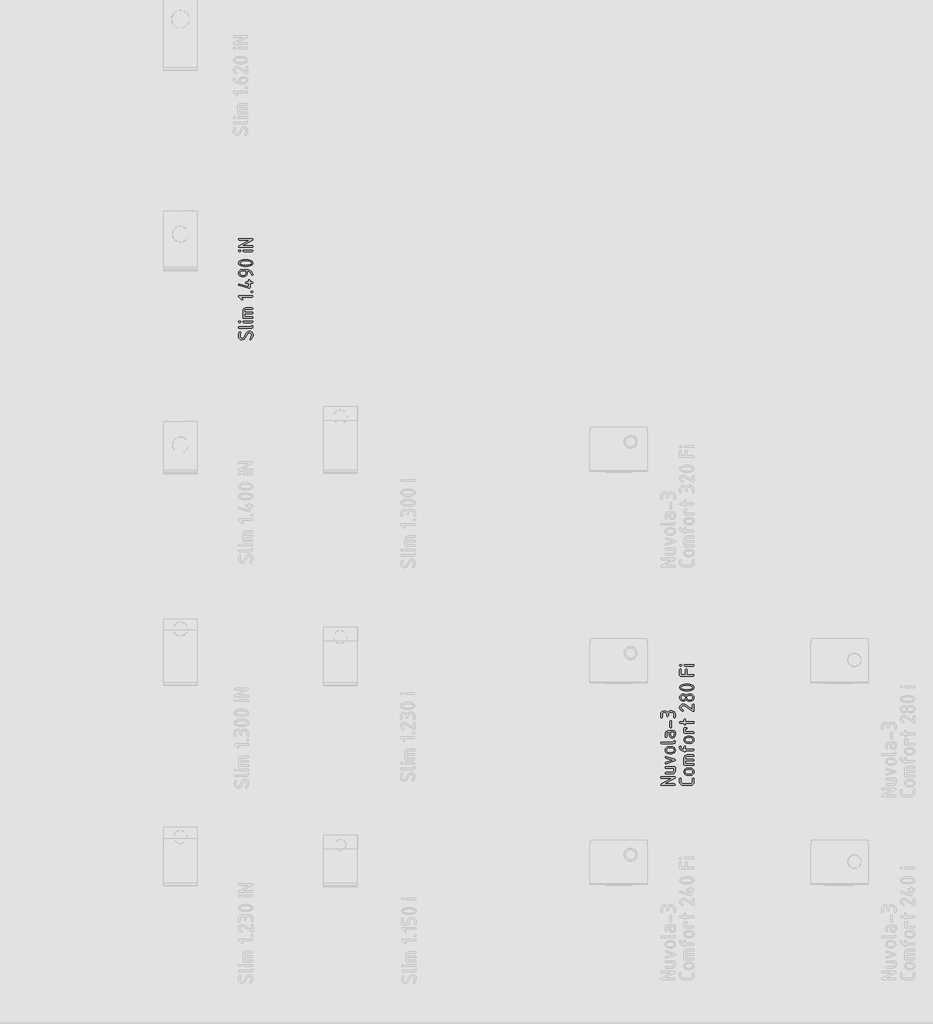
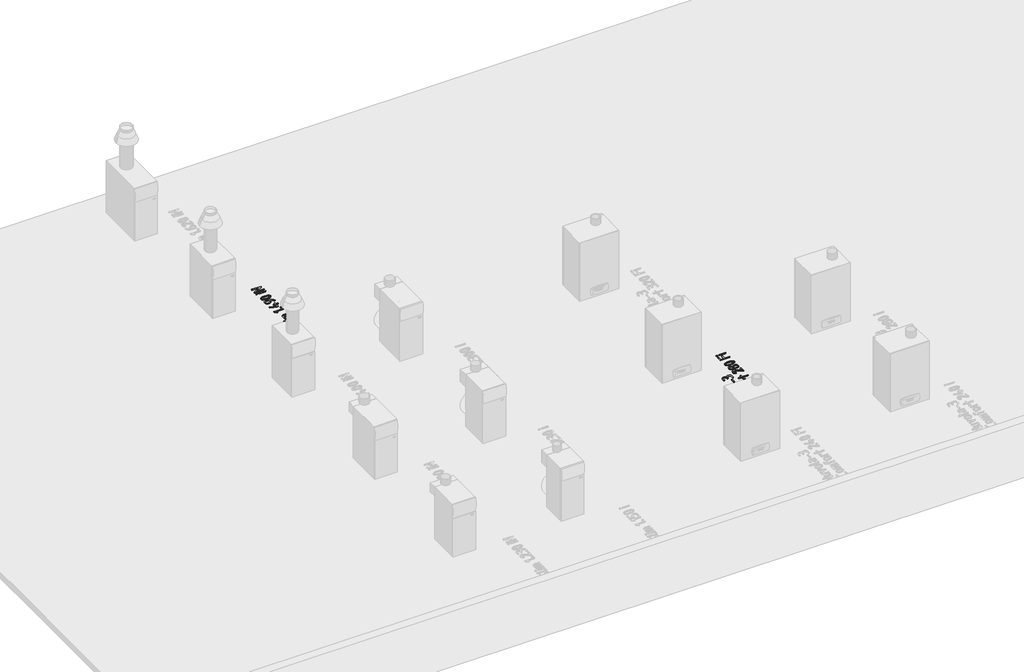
# One storey, part 10 of 37: 2 proxies.
"""IFC4 building model written with IfcOpenShell, lengths in millimetres."""

import ifcopenshell
import ifcopenshell.guid

model = None  # the IFC model being written
_history = None  # IfcOwnerHistory: only IFC2X3 demands one
_inside = {}  # id of a spatial element -> (the spatial element, [elements in it])
_under = {}  # id of a project, library or spatial element -> (it, [spatial elements below it])
_declared = {}  # id of a project -> (the project, [libraries it declares])
_typed = {}  # id of a type object -> (the type object, [elements of that type])
_made_of = {}  # id of a material, layer set ... -> (it, [elements and type objects made of it])


def new_model(schema):
    """Start an empty IFC model of exactly this schema.

    Asked for "IFC4X3", IfcOpenShell would pick the latest addendum, in which some entities
    have other attributes; the version numbers below select the first issue.
    IFC2X3 requires an IfcOwnerHistory on every rooted entity: one is made here for all.
    """
    global model, _history
    if schema == "IFC4X3":
        model = ifcopenshell.file(schema_version=(4, 3, 0, 0))
    else:
        model = ifcopenshell.file(schema=schema)
    _inside.clear()
    _under.clear()
    _declared.clear()
    _typed.clear()
    _made_of.clear()
    _history = None
    if model.schema == "IFC2X3":
        org = make("IfcOrganization", Name="unknown")
        user = make(
            "IfcPersonAndOrganization",
            ThePerson=make("IfcPerson", FamilyName="unknown"),
            TheOrganization=org,
        )
        app = make(
            "IfcApplication",
            ApplicationDeveloper=org,
            Version="unknown",
            ApplicationFullName="unknown",
            ApplicationIdentifier="unknown",
        )
        _history = make(
            "IfcOwnerHistory",
            OwningUser=user,
            OwningApplication=app,
            ChangeAction="ADDED",
            CreationDate=0,
        )
    return model


def make(cls, **values):
    """One entity of the class cls with the attributes given. An attribute that is None is left unset."""
    return model.create_entity(
        cls, **{name: value for name, value in values.items() if value is not None}
    )


def rooted(cls, **values):
    """An entity with a GlobalId (a new one), such as an element, a storey or a relation."""
    return make(cls, GlobalId=ifcopenshell.guid.new(), OwnerHistory=_history, **values)


def si_unit(unit_type, name, prefix=None):
    """IfcSIUnit, for example si_unit("LENGTHUNIT", "METRE", prefix="MILLI")."""
    return make("IfcSIUnit", UnitType=unit_type, Prefix=prefix, Name=name)


def assignment(units):
    """IfcUnitAssignment: the units of a project."""
    return None if units is None else make("IfcUnitAssignment", Units=units)


def point(xyz):
    """IfcCartesianPoint."""
    return None if xyz is None else make("IfcCartesianPoint", Coordinates=xyz)


def direction(xyz):
    """IfcDirection."""
    return None if xyz is None else make("IfcDirection", DirectionRatios=xyz)


def frame(location, z_axis=None, x_axis=None):
    """IfcAxis2Placement3D, a coordinate frame: its origin and axes. An axis left out is left unset."""
    return make(
        "IfcAxis2Placement3D",
        Location=point(location),
        Axis=direction(z_axis),
        RefDirection=direction(x_axis),
    )


def origin():
    """The frame at (0, 0, 0) with its axes left unset."""
    return frame((0.0, 0.0, 0.0))


def origin_with_axes():
    """The frame at (0, 0, 0) with the z axis (0, 0, 1) and the x axis (1, 0, 0) written out."""
    return frame((0.0, 0.0, 0.0), z_axis=(0.0, 0.0, 1.0), x_axis=(1.0, 0.0, 0.0))


def place(relative_to, where):
    """IfcLocalPlacement: puts the frame where relative to a parent placement (None: the world)."""
    return make(
        "IfcLocalPlacement", PlacementRelTo=relative_to, RelativePlacement=where
    )


def context(
    kind, dimensions, precision=None, world=None, true_north=None, identifier=None
):
    """IfcGeometricRepresentationContext, for example the 3D "Model" context."""
    return make(
        "IfcGeometricRepresentationContext",
        ContextIdentifier=identifier,
        ContextType=kind,
        CoordinateSpaceDimension=dimensions,
        Precision=precision,
        WorldCoordinateSystem=world,
        TrueNorth=true_north,
    )


def project(units=None, contexts=None):
    """IfcProject with its units and contexts."""
    return rooted(
        "IfcProject",
        Name="project",
        RepresentationContexts=contexts,
        UnitsInContext=assignment(units),
    )


def spatial(cls, under=None, at=None, **own):
    """A site, building, storey or space (cls), placed at a placement, below another one or the project."""
    s = rooted(cls, ObjectPlacement=at, **own)
    if under is not None:
        _under.setdefault(under.id(), (under, []))[1].append(s)
    return s


def polyline(points):
    """IfcPolyline through the points."""
    return make("IfcPolyline", Points=[point(p) for p in points])


def outline(outer, holes=None, kind="AREA"):
    """IfcArbitraryClosedProfileDef: a profile drawn as a closed curve; with holes, ...WithVoids."""
    if holes is None:
        return make("IfcArbitraryClosedProfileDef", ProfileType=kind, OuterCurve=outer)
    return make(
        "IfcArbitraryProfileDefWithVoids",
        ProfileType=kind,
        OuterCurve=outer,
        InnerCurves=holes,
    )


def extrude(swept, where, along, depth):
    """IfcExtrudedAreaSolid: the profile swept, set in the frame where, extruded along a direction by depth."""
    return make(
        "IfcExtrudedAreaSolid",
        SweptArea=swept,
        Position=where,
        ExtrudedDirection=direction(along),
        Depth=depth,
    )


def shape(context_of_items, identifier, shape_type, items):
    """IfcShapeRepresentation: the items that make up one representation, for example the "Body"."""
    return make(
        "IfcShapeRepresentation",
        ContextOfItems=context_of_items,
        RepresentationIdentifier=identifier,
        RepresentationType=shape_type,
        Items=items,
    )


def made_of(thing, what):
    """Note that an element or type object is made of a material, layer set ...; save() writes the relation."""
    if what is not None:
        _made_of.setdefault(what.id(), (what, []))[1].append(thing)
    return thing


def element(
    cls,
    number,
    at=None,
    inside=None,
    cuts=None,
    type_object=None,
    material=None,
    context=None,
    identifier="Body",
    shape_type=None,
    held_by="IfcProductDefinitionShape",
    body=None,
    shapes=None,
    **own,
):
    """One element of the class cls, such as IfcWall. Its Tag is "e" and its number.

    at: its placement. inside: the storey or other place that contains it. cuts: it is an
    opening in that element (IfcRelVoidsElement). A single representation is given by context,
    identifier, shape_type and body (its items); several are given by shapes. held_by: the class
    of the entity that holds the representations. save() writes the other relations.
    """
    e = rooted(cls, Tag="e%d" % number, ObjectPlacement=at, **own)
    if body is not None:
        shapes = [shape(context, identifier, shape_type, body)]
    if shapes is not None:
        e.Representation = make(held_by, Representations=shapes)
    if inside is not None:
        _inside.setdefault(inside.id(), (inside, []))[1].append(e)
    if cuts is not None:
        rooted(
            "IfcRelVoidsElement", RelatingBuildingElement=cuts, RelatedOpeningElement=e
        )
    if type_object is not None:
        _typed.setdefault(type_object.id(), (type_object, []))[1].append(e)
    return made_of(e, material)


def aggregate(whole, parts):
    """IfcRelAggregates: a whole, such as a stair, and the parts it consists of."""
    return rooted("IfcRelAggregates", RelatingObject=whole, RelatedObjects=parts)


def save(model, path):
    """Write the relations noted so far, then the file.

    IfcRelAggregates (storeys below a building ...), IfcRelContainedInSpatialStructure (elements
    in a storey), IfcRelDefinesByType, IfcRelAssociatesMaterial and IfcRelDeclares: one each for
    every whole, place, type object, material and project.
    """
    for whole, parts in _under.values():
        aggregate(whole, parts)
    for where, things in _inside.values():
        rooted(
            "IfcRelContainedInSpatialStructure",
            RelatedElements=things,
            RelatingStructure=where,
        )
    for kind, things in _typed.values():
        rooted("IfcRelDefinesByType", RelatedObjects=things, RelatingType=kind)
    for what, things in _made_of.values():
        rooted("IfcRelAssociatesMaterial", RelatedObjects=things, RelatingMaterial=what)
    for by, libraries in _declared.values():
        rooted("IfcRelDeclares", RelatingContext=by, RelatedDefinitions=libraries)
    model.write(path)


model = new_model("IFC4")

# Units and contexts
model_context = context("Model", 3, world=origin())
ifc_project = project(units=[si_unit("LENGTHUNIT", "METRE", prefix="MILLI")], contexts=[model_context])

# Site, building, storey
site = spatial("IfcSite", under=ifc_project)
building = spatial("IfcBuilding", under=site)
storey = spatial("IfcBuildingStorey", under=building, Name="01_Стартовый вид_Площадка", Elevation=0.0)

# Proxies
placement = place(None, origin())
element("IfcBuildingElementProxy", 1, Name="150 мм", ObjectType="150 мм", at=placement, inside=storey, context=model_context, shape_type="SweptSolid", body=[
    extrude(outline(polyline([(8493.5127035, -15041.7152815), (8386.8818775, -15041.7152815), (8381.2187379, -15039.7976046), (8379.3310247, -15034.0445739), (8381.2187379, -15028.2915432), (8386.8818775, -15026.3738663), (8522.6374214, -15026.3738663), (8528.300561, -15028.411398), (8530.1882742, -15034.5239932), (8526.4328236, -15041.7152815), (8415.8867406, -15100.5240398), (8522.6374214, -15100.5240398), (8528.300561, -15102.4417167), (8530.1882742, -15108.1947474), (8528.300561, -15113.9477781), (8522.6374214, -15115.865455), (8386.8818775, -15115.865455), (8381.2187379, -15113.8678749), (8379.3310247, -15107.8751346), (8383.8056042, -15100.5240398), (8493.5127035, -15041.7152815)])), origin_with_axes(), (0.0, 0.0, 1.0), 10.0),
    extrude(outline(polyline([(8432.8262199, -14921.5408625), (8522.7173246, -14921.5408625), (8528.3205368, -14923.398612), (8530.1882742, -14928.9718605), (8530.1882742, -14966.0469472), (8528.0208998, -14977.5430207), (8521.5187765, -14987.1014415), (8511.8604767, -14993.5436373), (8500.2245726, -14995.6910359), (8432.8262199, -14995.6910359), (8427.2230077, -14993.773359), (8425.3552703, -14988.0203283), (8427.2230077, -14982.2672976), (8432.8262199, -14980.3496207), (8499.9449114, -14980.3496207), (8510.4322069, -14976.0747993), (8514.846859, -14965.8471892), (8514.846859, -14936.8822777), (8432.8262199, -14936.8822777), (8427.2230077, -14934.9646008), (8425.3552703, -14929.2115701), (8427.2230077, -14923.4585394), (8432.8262199, -14921.5408625)])), origin_with_axes(), (0.0, 0.0, 1.0), 10.0),
    extrude(outline(polyline([(8498.8662181, -14853.7030422), (8430.4690754, -14830.9705806), (8425.3552703, -14823.8192438), (8427.2030319, -14818.0961768), (8432.7463167, -14816.1884878), (8435.223316, -14816.667907), (8523.9558242, -14846.192141), (8528.6301617, -14849.0886321), (8530.1882742, -14853.7030422), (8528.6601254, -14858.2974764), (8524.0756791, -14861.2139433), (8435.223316, -14890.7381773), (8432.7463167, -14891.2175965), (8427.5126568, -14889.0002826), (8425.3552703, -14883.7066953), (8426.6337216, -14879.1821764), (8430.4690754, -14876.5553585), (8498.8662181, -14853.7030422)])), origin_with_axes(), (0.0, 0.0, 1.0), 10.0),
    extrude(outline(polyline([(8492.753623, -14786.0250282), (8462.7899215, -14786.0250282), (8448.3973568, -14783.3133132), (8436.3020093, -14775.1781683), (8428.0919551, -14763.1976816), (8425.3552703, -14748.9499415), (8428.0619914, -14734.5523829), (8436.1821545, -14722.6018599), (8448.2475383, -14714.5566061), (8462.7899215, -14711.8748548), (8492.753623, -14711.8748548), (8507.1461877, -14714.5865698), (8519.2415352, -14722.7217147), (8527.4515894, -14734.7022014), (8530.1882742, -14748.9499415), (8527.4515894, -14763.1976816), (8519.2415352, -14775.1781683), (8507.1461877, -14783.3133132), (8492.753623, -14786.0250282)]), holes=[polyline([(8492.3141554, -14727.21627), (8462.3105022, -14727.21627), (8453.6809562, -14728.8093401), (8446.4097646, -14733.5885505), (8441.4657539, -14740.6150385), (8439.8177503, -14748.9499415), (8441.4657539, -14757.2848445), (8446.4097646, -14764.3113325), (8453.6809562, -14769.0905429), (8462.3105022, -14770.683613), (8492.3141554, -14770.683613), (8501.0236047, -14769.1055248), (8508.2947962, -14764.3712599), (8513.2088433, -14757.3597537), (8514.846859, -14748.9499415), (8513.1988554, -14740.6150385), (8508.2548446, -14733.5885505), (8500.9736651, -14728.8093401), (8492.3141554, -14727.21627)])]), origin_with_axes(), (0.0, 0.0, 1.0), 10.0),
    extrude(outline(polyline([(8386.8818775, -14681.1920244), (8381.2187379, -14679.2743475), (8379.3310247, -14673.5213168), (8381.2187379, -14667.7682861), (8386.8818775, -14665.8506092), (8507.5756674, -14665.8506092), (8512.3498838, -14663.9778778), (8515.0865686, -14658.3596838), (8517.8332412, -14652.7414898), (8522.6374214, -14650.8687584), (8528.300561, -14652.7364958), (8530.1882742, -14658.339708), (8528.6900891, -14667.5635341), (8524.1955339, -14674.8596955), (8517.0441971, -14679.6089422), (8507.5756674, -14681.1920244), (8386.8818775, -14681.1920244)])), origin_with_axes(), (0.0, 0.0, 1.0), 10.0),
    extrude(outline(polyline([(8530.1882742, -14593.578161), (8527.9659663, -14605.1940893), (8521.2990427, -14614.8723649), (8511.4060272, -14621.4044519), (8499.5054438, -14623.5818142), (8484.0441738, -14619.586654), (8472.6280035, -14608.8296851), (8468.8226134, -14593.578161), (8468.8226134, -14563.5745079), (8454.7596494, -14563.5745079), (8444.7517731, -14567.8892809), (8440.6966855, -14578.5563587), (8440.6966855, -14608.5600118), (8438.7790086, -14614.1931877), (8433.0259779, -14616.070913), (8427.2729472, -14614.1931877), (8425.3552703, -14608.5600118), (8425.3552703, -14578.5563587), (8427.5226447, -14566.875509), (8434.024768, -14557.0823725), (8443.6830678, -14550.4454126), (8455.3189719, -14548.2330927), (8522.7173246, -14548.2330927), (8528.3205368, -14550.1507696), (8530.1882742, -14555.9038003), (8530.1882742, -14593.578161)]), holes=[polyline([(8484.1640286, -14563.5745079), (8484.1640286, -14593.578161), (8488.638608, -14604.1853114), (8499.5054438, -14608.5600118), (8510.3123521, -14604.125384), (8514.846859, -14593.578161), (8514.846859, -14563.5745079), (8484.1640286, -14563.5745079)])]), origin_with_axes(), (0.0, 0.0, 1.0), 10.0),
    extrude(outline(polyline([(8491.8347362, -14450.3916192), (8491.8347362, -14510.3989255), (8489.9170593, -14516.0321014), (8484.1640286, -14517.9098267), (8478.4109979, -14516.0321014), (8476.493321, -14510.3989255), (8476.493321, -14450.3916192), (8478.4109979, -14444.7584433), (8484.1640286, -14442.880718), (8489.9170593, -14444.7584433), (8491.8347362, -14450.3916192)])), origin_with_axes(), (0.0, 0.0, 1.0), 10.0),
    extrude(outline(polyline([(8456.0381007, -14376.4012521), (8456.0381007, -14391.3831029), (8454.1204238, -14397.0162788), (8448.3673931, -14398.8940041), (8442.6143624, -14397.0162788), (8440.6966855, -14391.3831029), (8440.6966855, -14376.4012521), (8439.0237122, -14367.6967968), (8434.0047922, -14360.4405871), (8426.5787881, -14355.5415219), (8417.6845627, -14353.9085002), (8408.8402768, -14355.5565038), (8401.4042849, -14360.5005145), (8396.3554012, -14367.7717061), (8394.6724399, -14376.4012521), (8394.6724399, -14406.4049053), (8392.754763, -14412.0380812), (8387.0017323, -14413.9158065), (8381.2487016, -14412.0380812), (8379.3310247, -14406.4049053), (8379.3310247, -14376.4012521), (8382.1476127, -14361.9337782), (8390.5973765, -14349.6936062), (8403.002349, -14341.3487153), (8417.6845627, -14338.567085), (8434.8837274, -14342.3225356), (8448.3673931, -14353.5888874), (8461.4415549, -14342.3225356), (8478.1313367, -14338.567085), (8492.9933326, -14338.567085), (8507.3059941, -14341.3636971), (8519.3214384, -14349.7535336), (8527.4715652, -14362.0086875), (8530.1882742, -14376.4012521), (8530.1882742, -14406.4049053), (8528.2705973, -14412.0380812), (8522.5175666, -14413.9158065), (8516.7645359, -14412.0380812), (8514.846859, -14406.4049053), (8514.846859, -14376.4012521), (8513.2438009, -14367.6967968), (8508.4346268, -14360.4405871), (8501.3182477, -14355.5415219), (8492.7935746, -14353.9085002), (8478.0913851, -14353.9085002), (8469.6166515, -14355.5565038), (8462.4902844, -14360.5005145), (8457.6511466, -14367.7717061), (8456.0381007, -14376.4012521)])), origin_with_axes(), (0.0, 0.0, 1.0), 10.0),
    extrude(outline(polyline([(8575.3552703, -15048.0276347), (8577.2729472, -15042.3944588), (8583.0259779, -15040.5167335), (8588.7790086, -15042.3944588), (8590.6966855, -15048.0276347), (8590.6966855, -15078.0312878), (8592.3446891, -15086.7357431), (8597.2886999, -15093.9919528), (8604.5698793, -15098.8910181), (8613.2293891, -15100.5240398), (8688.338401, -15100.5240398), (8696.9979107, -15098.8760362), (8704.2790902, -15093.9320254), (8709.223101, -15086.6608339), (8710.8711046, -15078.0312878), (8710.8711046, -15048.0276347), (8712.7887815, -15042.3944588), (8718.5418122, -15040.5167335), (8724.2948429, -15042.3944588), (8726.2125198, -15048.0276347), (8726.2125198, -15078.0312878), (8723.4558592, -15092.4987617), (8715.1858776, -15104.7389338), (8703.000639, -15113.0838247), (8688.4982074, -15115.865455), (8613.0695827, -15115.865455), (8598.5671511, -15113.0838247), (8586.3819125, -15104.7389338), (8578.1119309, -15092.4987617), (8575.3552703, -15078.0312878), (8575.3552703, -15048.0276347)])), origin_with_axes(), (0.0, 0.0, 1.0), 10.0),
    extrude(outline(polyline([(8688.7778686, -15011.0324511), (8658.8141671, -15011.0324511), (8644.4216024, -15008.3207361), (8632.3262549, -15000.1855912), (8624.1162007, -14988.2051045), (8621.3795159, -14973.9573644), (8624.086237, -14959.5598058), (8632.2064001, -14947.6092828), (8644.2717839, -14939.564029), (8658.8141671, -14936.8822777), (8688.7778686, -14936.8822777), (8703.1704333, -14939.5939927), (8715.2657808, -14947.7291376), (8723.475835, -14959.7096243), (8726.2125198, -14973.9573644), (8723.475835, -14988.2051045), (8715.2657808, -15000.1855912), (8703.1704333, -15008.3207361), (8688.7778686, -15011.0324511)]), holes=[polyline([(8688.338401, -14952.2236929), (8658.3347478, -14952.2236929), (8649.7052018, -14953.816763), (8642.4340102, -14958.5959734), (8637.4899994, -14965.6224614), (8635.8419959, -14973.9573644), (8637.4899994, -14982.2922674), (8642.4340102, -14989.3187554), (8649.7052018, -14994.0979658), (8658.3347478, -14995.6910359), (8688.338401, -14995.6910359), (8697.0478502, -14994.1129477), (8704.3190418, -14989.3786828), (8709.2330889, -14982.3671766), (8710.8711046, -14973.9573644), (8709.223101, -14965.6224614), (8704.2790902, -14958.5959734), (8696.9979107, -14953.816763), (8688.338401, -14952.2236929)])]), origin_with_axes(), (0.0, 0.0, 1.0), 10.0),
    extrude(outline(polyline([(8621.3795159, -14898.5287397), (8621.3795159, -14829.4923713), (8623.5468903, -14817.5917878), (8630.0490136, -14807.6987724), (8639.7073134, -14801.0318488), (8651.3432175, -14798.8095409), (8718.7415702, -14798.8095409), (8724.3447824, -14800.7272178), (8726.2125198, -14806.4802485), (8724.3447824, -14812.2332792), (8718.7415702, -14814.1509561), (8651.6228787, -14814.1509561), (8641.0157283, -14818.5656081), (8636.7209311, -14829.4923713), (8636.7209311, -14844.8337865), (8718.7415702, -14844.8337865), (8724.3447824, -14846.7514634), (8726.2125198, -14852.5044941), (8724.3447824, -14858.2575248), (8718.7415702, -14860.1752017), (8636.7209311, -14860.1752017), (8636.7209311, -14890.8580321), (8718.7415702, -14890.8580321), (8724.3447824, -14892.775709), (8726.2125198, -14898.5287397), (8724.3447824, -14904.2817704), (8718.7415702, -14906.1994473), (8628.8504655, -14906.1994473), (8623.2472533, -14904.2817704), (8621.3795159, -14898.5287397)])), origin_with_axes(), (0.0, 0.0, 1.0), 10.0),
    extrude(outline(polyline([(8621.3795159, -14760.2961965), (8621.3795159, -14752.7852953), (8606.0381007, -14752.7852953), (8594.1375172, -14750.5529995), (8584.2445018, -14743.8561122), (8577.5775782, -14734.0330121), (8575.3552703, -14722.4220777), (8575.3552703, -14714.9111765), (8577.2729472, -14709.3079644), (8583.0259779, -14707.440227), (8588.7790086, -14709.3079644), (8590.6966855, -14714.9111765), (8590.6966855, -14722.4220777), (8595.1712649, -14733.0691797), (8606.0381007, -14737.4438801), (8621.3795159, -14737.4438801), (8621.3795159, -14714.9111765), (8623.2971928, -14709.3079644), (8629.0502235, -14707.440227), (8634.8032542, -14709.3079644), (8636.7209311, -14714.9111765), (8636.7209311, -14737.4438801), (8718.7415702, -14737.4438801), (8724.3447824, -14739.361557), (8726.2125198, -14745.1145877), (8724.3447824, -14750.8676184), (8718.7415702, -14752.7852953), (8636.7209311, -14752.7852953), (8636.7209311, -14760.2961965), (8634.8032542, -14765.9293724), (8629.0502235, -14767.8070977), (8623.2971928, -14765.9293724), (8621.3795159, -14760.2961965)])), origin_with_axes(), (0.0, 0.0, 1.0), 10.0),
    extrude(outline(polyline([(8688.7778686, -14678.6351219), (8658.8141671, -14678.6351219), (8644.4216024, -14675.9234069), (8632.3262549, -14667.7882619), (8624.1162007, -14655.8077752), (8621.3795159, -14641.5600351), (8624.086237, -14627.1624765), (8632.2064001, -14615.2119536), (8644.2717839, -14607.1666997), (8658.8141671, -14604.4849484), (8688.7778686, -14604.4849484), (8703.1704333, -14607.1966634), (8715.2657808, -14615.3318084), (8723.475835, -14627.312295), (8726.2125198, -14641.5600351), (8723.475835, -14655.8077752), (8715.2657808, -14667.7882619), (8703.1704333, -14675.9234069), (8688.7778686, -14678.6351219)]), holes=[polyline([(8688.338401, -14619.8263636), (8658.3347478, -14619.8263636), (8649.7052018, -14621.4194337), (8642.4340102, -14626.1986441), (8637.4899994, -14633.2251321), (8635.8419959, -14641.5600351), (8637.4899994, -14649.8949381), (8642.4340102, -14656.9214261), (8649.7052018, -14661.7006365), (8658.3347478, -14663.2937067), (8688.338401, -14663.2937067), (8697.0478502, -14661.7156184), (8704.3190418, -14656.9813535), (8709.2330889, -14649.9698474), (8710.8711046, -14641.5600351), (8709.223101, -14633.2251321), (8704.2790902, -14626.1986441), (8696.9979107, -14621.4194337), (8688.338401, -14619.8263636)])]), origin_with_axes(), (0.0, 0.0, 1.0), 10.0),
    extrude(outline(polyline([(8628.8504655, -14573.802118), (8623.2472533, -14571.8844411), (8621.3795159, -14566.1314104), (8621.3795159, -14520.9461485), (8623.2971928, -14515.3429363), (8629.0502235, -14513.4751989), (8644.2318323, -14513.4751989), (8649.8650082, -14515.3429363), (8651.7427335, -14520.9461485), (8649.8650082, -14526.5793244), (8644.2318323, -14528.4570496), (8636.7209311, -14528.4570496), (8636.7209311, -14558.4607028), (8718.7415702, -14558.4607028), (8724.3447824, -14560.3783797), (8726.2125198, -14566.1314104), (8724.3447824, -14571.8844411), (8718.7415702, -14573.802118), (8628.8504655, -14573.802118)])), origin_with_axes(), (0.0, 0.0, 1.0), 10.0),
    extrude(outline(polyline([(8636.7209311, -14468.9691142), (8636.7209311, -14476.4800153), (8634.8032542, -14482.1131912), (8629.0502235, -14483.9909165), (8623.2971928, -14482.1131912), (8621.3795159, -14476.4800153), (8621.3795159, -14468.9691142), (8583.0259779, -14468.9691142), (8577.2729472, -14467.0514373), (8575.3552703, -14461.2984066), (8577.2729472, -14455.5453759), (8583.0259779, -14453.627699), (8621.3795159, -14453.627699), (8621.3795159, -14431.0949954), (8623.2971928, -14425.4917832), (8629.0502235, -14423.6240458), (8634.8032542, -14425.4917832), (8636.7209311, -14431.0949954), (8636.7209311, -14453.627699), (8718.7415702, -14453.627699), (8724.3447824, -14455.5453759), (8726.2125198, -14461.2984066), (8724.3447824, -14467.0514373), (8718.7415702, -14468.9691142), (8636.7209311, -14468.9691142)])), origin_with_axes(), (0.0, 0.0, 1.0), 10.0),
    extrude(outline(polyline([(8575.3552703, -14306.5259001), (8578.1069369, -14292.0983778), (8586.3619367, -14279.9780605), (8598.5222056, -14271.7530245), (8612.9896795, -14269.0113458), (8623.7865999, -14270.7192768), (8634.6833994, -14275.8430697), (8710.8711046, -14323.105815), (8710.8711046, -14276.522247), (8712.7887815, -14270.8890711), (8718.5418122, -14269.0113458), (8724.2948429, -14270.8890711), (8726.2125198, -14276.522247), (8726.2125198, -14336.5295533), (8724.3347945, -14342.1627292), (8718.7016186, -14344.0404545), (8714.3468939, -14342.7620032), (8625.7342405, -14287.7885987), (8613.2693407, -14284.0331481), (8604.604837, -14285.6811517), (8597.3086757, -14290.6251625), (8592.3496831, -14297.8963541), (8590.6966855, -14306.5259001), (8595.4109746, -14318.7610782), (8609.5538417, -14330.0573937), (8613.1894375, -14336.5295533), (8611.3117122, -14342.1627292), (8605.6785363, -14344.0404545), (8602.6022629, -14343.3213256), (8582.1670185, -14327.1509147), (8577.0582074, -14317.3952329), (8575.3552703, -14306.5259001)])), origin_with_axes(), (0.0, 0.0, 1.0), 10.0),
    extrude(outline(polyline([(8726.2125198, -14201.7727995), (8723.4558592, -14216.0205396), (8715.1858776, -14228.0010262), (8703.000639, -14236.1361712), (8688.4982074, -14238.8478862), (8673.3965018, -14238.8478862), (8656.4869862, -14235.0125324), (8643.2330422, -14223.506471), (8629.9790983, -14235.0125324), (8613.0695827, -14238.8478862), (8598.5671511, -14236.1361712), (8586.3819125, -14228.0010262), (8578.1119309, -14216.0205396), (8575.3552703, -14201.7727995), (8578.1119309, -14187.5250594), (8586.3819125, -14175.5445727), (8598.5671511, -14167.4094277), (8613.0695827, -14164.6977127), (8629.9790983, -14168.5330665), (8643.2330422, -14180.0391279), (8652.4119228, -14171.7891221), (8663.4885045, -14167.2546153), (8688.4982074, -14164.6977127), (8703.000639, -14167.4094277), (8715.1858776, -14175.5445727), (8723.4558592, -14187.5250594), (8726.2125198, -14201.7727995)]), holes=[polyline([(8710.8711046, -14201.7727995), (8709.2330889, -14193.3629872), (8704.3190418, -14186.3514811), (8697.0478502, -14181.6172162), (8688.338401, -14180.0391279), (8673.3565502, -14180.0391279), (8664.7270042, -14181.6321981), (8657.4558126, -14186.4114085), (8652.5118018, -14193.4378965), (8650.8637982, -14201.7727995), (8652.49682, -14210.1826117), (8657.3958852, -14217.1941179), (8664.6520949, -14221.9283827), (8673.3565502, -14223.506471), (8688.338401, -14223.506471), (8697.0478502, -14221.9283827), (8704.3190418, -14217.1941179), (8709.2330889, -14210.1826117), (8710.8711046, -14201.7727995)]), polyline([(8636.2015603, -14201.7727995), (8634.5685385, -14193.3629872), (8629.6694733, -14186.3514811), (8622.4132636, -14181.6172162), (8613.7088083, -14180.0391279), (8605.0792623, -14181.6321981), (8597.8080707, -14186.4114085), (8592.8640599, -14193.4378965), (8591.2160563, -14201.7727995), (8592.8490781, -14210.1826117), (8597.7481433, -14217.1941179), (8605.004353, -14221.9283827), (8613.7088083, -14223.506471), (8622.4132636, -14221.9283827), (8629.6694733, -14217.1941179), (8634.5685385, -14210.1826117), (8636.2015603, -14201.7727995)])]), origin_with_axes(), (0.0, 0.0, 1.0), 10.0),
    extrude(outline(polyline([(8650.783895, -14059.8647089), (8675.9234406, -14061.4927367), (8697.4074147, -14066.37682), (8719.0112435, -14078.7917804), (8724.4122007, -14087.1491561), (8726.2125198, -14096.9397956), (8724.4196916, -14106.7304351), (8719.0412072, -14115.0878109), (8697.5272695, -14127.5027712), (8676.0133318, -14132.3868546), (8650.783895, -14134.0148823), (8625.5544583, -14132.3868546), (8604.0405206, -14127.5027712), (8582.5265829, -14115.0878109), (8577.1480985, -14106.7304351), (8575.3552703, -14096.9397956), (8577.1555894, -14087.1491561), (8582.5565466, -14078.7917804), (8604.1603754, -14066.37682), (8625.6443494, -14061.4927367), (8650.783895, -14059.8647089)]), holes=[polyline([(8650.783895, -14075.2061241), (8615.6264852, -14079.0414779), (8596.9291354, -14086.4325243), (8590.6966855, -14096.9397956), (8596.9590991, -14107.3571759), (8615.74634, -14114.7182585), (8650.783895, -14118.6734671), (8685.9413049, -14114.8381133), (8704.6386546, -14107.447067), (8710.8711046, -14096.9397956), (8704.6386546, -14086.4325243), (8685.9413049, -14079.0414779), (8650.783895, -14075.2061241)])]), origin_with_axes(), (0.0, 0.0, 1.0), 10.0),
    extrude(outline(polyline([(8718.661667, -13978.0438278), (8582.9061231, -13978.0438278), (8577.2429835, -13976.1261509), (8575.3552703, -13970.3731202), (8575.3552703, -13910.2060075), (8577.2729472, -13904.5728316), (8583.0259779, -13902.6951063), (8588.7790086, -13904.5728316), (8590.6966855, -13910.2060075), (8590.6966855, -13962.7024126), (8636.7209311, -13962.7024126), (8636.7209311, -13910.2060075), (8638.638608, -13904.5728316), (8644.3916387, -13902.6951063), (8650.1446694, -13904.5728316), (8652.0623463, -13910.2060075), (8652.0623463, -13962.7024126), (8718.7815218, -13962.7024126), (8724.3547703, -13964.6200895), (8726.2125198, -13970.3731202), (8724.3248066, -13976.1261509), (8718.661667, -13978.0438278)])), origin_with_axes(), (0.0, 0.0, 1.0), 10.0),
    extrude(outline(polyline([(8590.3770727, -13873.210824), (8582.8661715, -13873.210824), (8577.2329956, -13871.2931471), (8575.3552703, -13865.5401164), (8577.2329956, -13859.7870857), (8582.8661715, -13857.8694088), (8590.3770727, -13857.8694088), (8596.0102486, -13859.7870857), (8597.8879739, -13865.5401164), (8596.0102486, -13871.2931471), (8590.3770727, -13873.210824)])), origin_with_axes(), (0.0, 0.0, 1.0), 10.0),
    extrude(outline(polyline([(8628.6906591, -13873.210824), (8623.0874469, -13871.2931471), (8621.2197095, -13865.5401164), (8623.0874469, -13859.7870857), (8628.6906591, -13857.8694088), (8718.7016186, -13857.8694088), (8724.3347945, -13859.7870857), (8726.2125198, -13865.5401164), (8724.3347945, -13871.2931471), (8718.7016186, -13873.210824), (8628.6906591, -13873.210824)])), origin_with_axes(), (0.0, 0.0, 1.0), 10.0),
])
element("IfcBuildingElementProxy", 2, Name="150 мм", ObjectType="150 мм", at=placement, inside=storey, context=model_context, shape_type="SweptSolid", body=[
    extrude(outline(polyline([(4092.553865, -10386.3738663), (4106.9464297, -10389.115545), (4119.1216804, -10397.3405811), (4127.4216257, -10409.400971), (4130.1882742, -10423.6487111), (4126.0033439, -10449.6671919), (4113.4485529, -10472.5894236), (4107.3359578, -10475.865455), (4102.0423705, -10473.6681169), (4099.8250566, -10468.434457), (4101.1834111, -10464.1995872), (4111.6507308, -10443.7443669), (4114.846859, -10423.9683239), (4113.1938614, -10415.418681), (4108.2348688, -10408.2273927), (4100.9387075, -10403.3433093), (4092.2742038, -10401.7152815), (4080.308699, -10404.8015428), (4072.0586931, -10414.0603266), (4050.4049248, -10455.7697991), (4036.7914164, -10470.841541), (4016.9654339, -10475.865455), (4002.5728692, -10473.1387581), (3990.3976185, -10464.9586676), (3982.0976732, -10452.9631991), (3979.3310247, -10438.7903683), (3981.4184959, -10415.6084512), (3987.6809096, -10398.6390082), (3994.6724399, -10394.2043803), (3999.9660272, -10396.4216943), (4002.1833411, -10401.7152815), (4001.3843091, -10404.8315065), (3996.3504072, -10421.7110584), (3994.6724399, -10438.4707554), (3996.3254375, -10446.945489), (4001.2844301, -10454.0718561), (4008.5805914, -10458.9109939), (4017.2450951, -10460.5240398), (4029.1806362, -10457.487718), (4037.3407509, -10448.3787528), (4058.9945193, -10406.7092318), (4072.6979188, -10391.4577077), (4092.553865, -10386.3738663)])), origin_with_axes(), (0.0, 0.0, 1.0), 10.0),
    extrude(outline(polyline([(3986.8818775, -10355.6910359), (3981.2187379, -10353.773359), (3979.3310247, -10348.0203283), (3981.2187379, -10342.2672976), (3986.8818775, -10340.3496207), (4107.5756674, -10340.3496207), (4112.3498838, -10338.4768894), (4115.0865686, -10332.8586954), (4117.8332412, -10327.2405013), (4122.6374214, -10325.36777), (4128.300561, -10327.2355074), (4130.1882742, -10332.8387195), (4128.6900891, -10342.0625457), (4124.1955339, -10349.358707), (4117.0441971, -10354.1079537), (4107.5756674, -10355.6910359), (3986.8818775, -10355.6910359)])), origin_with_axes(), (0.0, 0.0, 1.0), 10.0),
    extrude(outline(polyline([(4032.6664135, -10296.8822777), (4027.0632013, -10294.9646008), (4025.1954639, -10289.2115701), (4027.0632013, -10283.4585394), (4032.6664135, -10281.5408625), (4122.677373, -10281.5408625), (4128.3105489, -10283.4585394), (4130.1882742, -10289.2115701), (4128.3105489, -10294.9646008), (4122.677373, -10296.8822777), (4032.6664135, -10296.8822777)])), origin_with_axes(), (0.0, 0.0, 1.0), 10.0),
    extrude(outline(polyline([(3994.3528271, -10296.8822777), (3986.8419259, -10296.8822777), (3981.20875, -10294.9646008), (3979.3310247, -10289.2115701), (3981.20875, -10283.4585394), (3986.8419259, -10281.5408625), (3994.3528271, -10281.5408625), (3999.986003, -10283.4585394), (4001.8637283, -10289.2115701), (3999.986003, -10294.9646008), (3994.3528271, -10296.8822777)])), origin_with_axes(), (0.0, 0.0, 1.0), 10.0),
    extrude(outline(polyline([(4025.3552703, -10243.1873245), (4025.3552703, -10174.1509561), (4027.5226447, -10162.2503726), (4034.024768, -10152.3573572), (4043.6830678, -10145.6904336), (4055.3189719, -10143.4681257), (4122.7173246, -10143.4681257), (4128.3205368, -10145.3858026), (4130.1882742, -10151.1388333), (4128.3205368, -10156.891864), (4122.7173246, -10158.8095409), (4055.5986331, -10158.8095409), (4044.9914827, -10163.2241929), (4040.6966855, -10174.1509561), (4040.6966855, -10189.4923713), (4122.7173246, -10189.4923713), (4128.3205368, -10191.4100482), (4130.1882742, -10197.1630789), (4128.3205368, -10202.9161096), (4122.7173246, -10204.8337865), (4040.6966855, -10204.8337865), (4040.6966855, -10235.5166169), (4122.7173246, -10235.5166169), (4128.3205368, -10237.4342938), (4130.1882742, -10243.1873245), (4128.3205368, -10248.9403552), (4122.7173246, -10250.8580321), (4032.8262199, -10250.8580321), (4027.2230077, -10248.9403552), (4025.3552703, -10243.1873245)])), origin_with_axes(), (0.0, 0.0, 1.0), 10.0),
    extrude(outline(polyline([(4005.0598565, -10030.9644143), (4022.3589002, -10048.2235064), (4024.5162867, -10053.4571662), (4022.6385614, -10059.0903421), (4017.0053855, -10060.9680674), (4011.7717256, -10058.7707293), (3982.2874433, -10029.4462534), (3979.3310247, -10023.2937067), (3981.2187379, -10017.540676), (3986.8818775, -10015.6229991), (4122.6374214, -10015.6229991), (4128.300561, -10017.540676), (4130.1882742, -10023.2937067), (4128.300561, -10029.0467374), (4122.6374214, -10030.9644143), (4005.0598565, -10030.9644143)])), origin_with_axes(), (0.0, 0.0, 1.0), 10.0),
    extrude(outline(polyline([(4114.846859, -9984.9401687), (4109.0938283, -9983.0224918), (4107.1761514, -9977.2694611), (4109.0938283, -9971.5164304), (4114.846859, -9969.5987535), (4122.5175666, -9969.5987535), (4128.2705973, -9971.5164304), (4130.1882742, -9977.2694611), (4128.2705973, -9983.0224918), (4122.5175666, -9984.9401687), (4114.846859, -9984.9401687)])), origin_with_axes(), (0.0, 0.0, 1.0), 10.0),
    extrude(outline(polyline([(4091.9945426, -9940.3142291), (4089.9570109, -9940.0745195), (3984.8043942, -9910.0708664), (3980.6993671, -9907.4540364), (3979.3310247, -9902.7996748), (3981.1987621, -9897.1664989), (3986.8019743, -9895.2887736), (3988.9593608, -9895.648338), (4084.1640286, -9922.8953306), (4084.1640286, -9887.7778724), (4061.631325, -9887.7778724), (4056.0281128, -9885.8601955), (4054.1603754, -9880.1071648), (4056.0281128, -9874.3541341), (4061.631325, -9872.4364572), (4084.1640286, -9872.4364572), (4084.1640286, -9857.4146548), (4086.0817055, -9851.8114426), (4091.8347362, -9849.9437052), (4097.5877669, -9851.8114426), (4099.5054438, -9857.4146548), (4099.5054438, -9872.4364572), (4122.5175666, -9872.4364572), (4128.2705973, -9874.3541341), (4130.1882742, -9880.1071648), (4128.2705973, -9885.8601955), (4122.5175666, -9887.7778724), (4099.5054438, -9887.7778724), (4099.5054438, -9932.803328), (4097.6277185, -9938.4365038), (4091.9945426, -9940.3142291)])), origin_with_axes(), (0.0, 0.0, 1.0), 10.0),
    extrude(outline(polyline([(4130.1882742, -9796.048994), (4127.9509845, -9801.1627991), (4122.8371794, -9803.4000888), (4116.4848747, -9799.7245414), (4110.3722795, -9786.3807063), (4092.9334052, -9767.943042), (4071.3795159, -9759.9327458), (4071.3795159, -9781.6264657), (4068.5779098, -9795.9041695), (4060.1730915, -9807.8946441), (4047.7831009, -9816.029789), (4033.0259779, -9818.741504), (4017.6845627, -9818.741504), (4002.9274397, -9816.029789), (3990.5374491, -9807.8946441), (3982.1326308, -9795.9141574), (3979.3310247, -9781.6664173), (3982.0577216, -9767.343768), (3990.2378121, -9755.3782631), (4002.3331596, -9747.2880637), (4016.8056275, -9744.5913306), (4062.3105022, -9744.5913306), (4080.5009661, -9746.7711899), (4096.6788679, -9753.3107677), (4110.8442078, -9764.2100642), (4122.9969858, -9779.4690792), (4130.1882742, -9796.048994)]), holes=[polyline([(4056.0381007, -9759.9327458), (4018.5235464, -9759.9327458), (4009.8940003, -9761.5258159), (4002.6228087, -9766.3050263), (3997.678798, -9773.3315143), (3996.0307944, -9781.6664173), (3997.678798, -9790.0013203), (4002.6228087, -9797.0278083), (4009.8940003, -9801.8070187), (4018.5235464, -9803.4000888), (4033.5053971, -9803.4000888), (4042.2398161, -9801.8220005), (4049.5060138, -9797.0877357), (4054.405079, -9790.0762295), (4056.0381007, -9781.6664173), (4056.0381007, -9759.9327458)])]), origin_with_axes(), (0.0, 0.0, 1.0), 10.0),
    extrude(outline(polyline([(4054.7596494, -9639.7583267), (4079.8991951, -9641.3863545), (4101.3831691, -9646.2704379), (4122.9869979, -9658.6853982), (4128.3879551, -9667.042774), (4130.1882742, -9676.8334134), (4128.395446, -9686.6240529), (4123.0169616, -9694.9814287), (4101.5030239, -9707.396389), (4079.9890862, -9712.2804724), (4054.7596494, -9713.9085002), (4029.5302127, -9712.2804724), (4008.016275, -9707.396389), (3986.5023373, -9694.9814287), (3981.1238529, -9686.6240529), (3979.3310247, -9676.8334134), (3981.1313438, -9667.042774), (3986.532301, -9658.6853982), (4008.1361298, -9646.2704379), (4029.6201038, -9641.3863545), (4054.7596494, -9639.7583267)]), holes=[polyline([(4054.7596494, -9655.0997419), (4019.6022396, -9658.9350957), (4000.9048898, -9666.3261421), (3994.6724399, -9676.8334134), (4000.9348535, -9687.2507937), (4019.7220944, -9694.6118764), (4054.7596494, -9698.567085), (4089.9170593, -9694.7317312), (4108.614409, -9687.3406848), (4114.846859, -9676.8334134), (4108.614409, -9666.3261421), (4089.9170593, -9658.9350957), (4054.7596494, -9655.0997419)])]), origin_with_axes(), (0.0, 0.0, 1.0), 10.0),
    extrude(outline(polyline([(3994.3528271, -9557.9374457), (3986.8419259, -9557.9374457), (3981.20875, -9556.0197688), (3979.3310247, -9550.2667381), (3981.20875, -9544.5137074), (3986.8419259, -9542.5960305), (3994.3528271, -9542.5960305), (3999.986003, -9544.5137074), (4001.8637283, -9550.2667381), (3999.986003, -9556.0197688), (3994.3528271, -9557.9374457)])), origin_with_axes(), (0.0, 0.0, 1.0), 10.0),
    extrude(outline(polyline([(4032.6664135, -9557.9374457), (4027.0632013, -9556.0197688), (4025.1954639, -9550.2667381), (4027.0632013, -9544.5137074), (4032.6664135, -9542.5960305), (4122.677373, -9542.5960305), (4128.3105489, -9544.5137074), (4130.1882742, -9550.2667381), (4128.3105489, -9556.0197688), (4122.677373, -9557.9374457), (4032.6664135, -9557.9374457)])), origin_with_axes(), (0.0, 0.0, 1.0), 10.0),
    extrude(outline(polyline([(4093.5127035, -9437.7630266), (3986.8818775, -9437.7630266), (3981.2187379, -9435.8453497), (3979.3310247, -9430.092319), (3981.2187379, -9424.3392883), (3986.8818775, -9422.4216114), (4122.6374214, -9422.4216114), (4128.300561, -9424.4591431), (4130.1882742, -9430.5717382), (4126.4328236, -9437.7630266), (4015.8867406, -9496.5717849), (4122.6374214, -9496.5717849), (4128.300561, -9498.4894618), (4130.1882742, -9504.2424925), (4128.300561, -9509.9955232), (4122.6374214, -9511.9132001), (3986.8818775, -9511.9132001), (3981.2187379, -9509.91562), (3979.3310247, -9503.9228797), (3983.8056042, -9496.5717849), (4093.5127035, -9437.7630266)])), origin_with_axes(), (0.0, 0.0, 1.0), 10.0),
])

save(model, "model.ifc")
